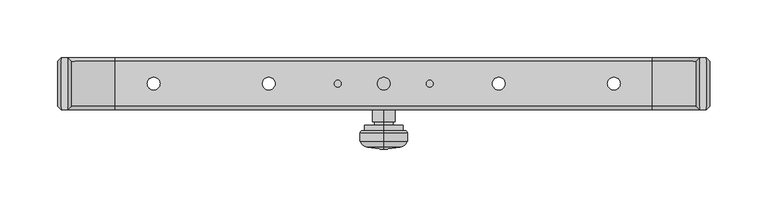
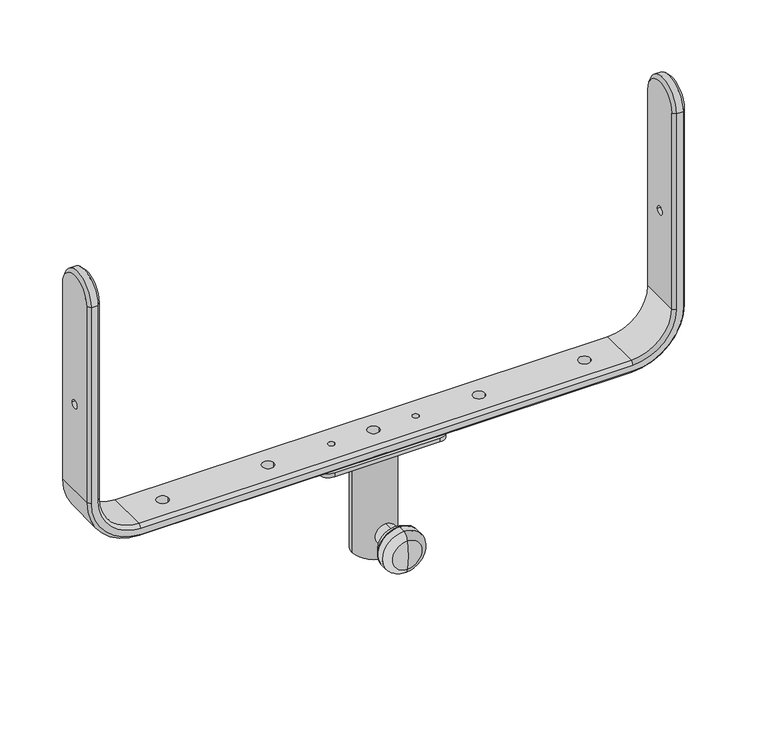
"""IFC4 building model written with IfcOpenShell, lengths in millimetres: proxy geometry, ePS10-HBRK535-SHM : ePS10-HBRK535-SHM."""

from ifc_helpers import new_model, si_unit, point, frame, frame_2d, origin, origin_with_axes, origin_2d, place, context, project, spatial, polyline, circle_curve, ellipse_curve, trimmed, segment, composite_curve, outline, extrude, source, transform, mapped, element, save
from ifc_brep_helpers import plane_surface, cylinder_surface, revolved_surface, advanced_brep


def generic_models_154d06d4(model_context):
    return source(origin(), model_context, "Body", "SolidModel", [
        advanced_brep(
        [(283.5, 19.5718345, 246.5012591), (283.5, -19.5718345, 246.5012591), (283.5, -19.5718345, 50.0), (283.5, 19.5718345, 50.0), (283.5, 4.0, 137.0012591), (283.5, -4.0, 137.0012591), (280.5, -22.5718345, 246.5012591), (280.5, -22.5718345, 50.0), (274.5, -22.5718345, 246.5012591), (274.5, -22.5718345, 50.0), (233.5, -22.5718345, 9.0), (-233.5, -22.5718345, 9.0), (-274.5, -22.5718345, 50.0), (-274.5, -22.5718345, 246.5012591), (-280.5, -22.5718345, 246.5012591), (-280.5, -22.5718345, 50.0), (-233.5, -22.5718345, 3.0), (233.5, -22.5718345, 3.0), (271.5, -19.5718345, 246.5012591), (271.5, -19.5718345, 50.0), (271.5, 19.5718345, 246.5012591), (271.5, 19.5718345, 50.0), (271.5, -4.0, 137.0012591), (271.5, 4.0, 137.0012591), (233.5, -19.5718345, 0.0), (233.5, 19.5718345, 0.0), (233.5, -19.5718345, 12.0), (233.5, 19.5718345, 12.0), (-233.5, -19.5718345, 0.0), (-233.5, 19.5718345, 0.0), (5.5, 0.0, 0.0), (-5.5, 0.0, 0.0), (-194.5, 0.0, 0.0), (-205.5, 0.0, 0.0), (-37.0, 0.0, 0.0), (-43.0, 0.0, 0.0), (-94.5, 0.0, 0.0), (-105.5, 0.0, 0.0), (194.5, 0.0, 0.0), (205.5, 0.0, 0.0), (37.0, 0.0, 0.0), (43.0, 0.0, 0.0), (94.5, 0.0, 0.0), (105.5, 0.0, 0.0), (-233.5, -19.5718345, 12.0), (-233.5, 19.5718345, 12.0), (-5.5, 0.0, 12.0), (5.5, 0.0, 12.0), (-205.5, 0.0, 12.0), (-194.5, 0.0, 12.0), (-43.0, 0.0, 12.0), (-37.0, 0.0, 12.0), (-105.5, 0.0, 12.0), (-94.5, 0.0, 12.0), (205.5, 0.0, 12.0), (194.5, 0.0, 12.0), (43.0, 0.0, 12.0), (37.0, 0.0, 12.0), (105.5, 0.0, 12.0), (94.5, 0.0, 12.0), (-283.5, -19.5718345, 50.0), (-283.5, 19.5718345, 50.0), (-271.5, -19.5718345, 50.0), (-271.5, 19.5718345, 50.0), (-283.5, -19.5718345, 246.5012591), (-283.5, 19.5718345, 246.5012591), (-283.5, -4.0, 137.0012591), (-283.5, 4.0, 137.0012591), (-271.5, -19.5718345, 246.5012591), (-271.5, 19.5718345, 246.5012591), (-271.5, 4.0, 137.0012591), (-271.5, -4.0, 137.0012591), (274.5, 22.5718345, 246.5012591), (274.5, 22.5718345, 50.0), (280.5, 22.5718345, 246.5012591), (280.5, 22.5718345, 50.0), (233.5, 22.5718345, 3.0), (-233.5, 22.5718345, 3.0), (-280.5, 22.5718345, 50.0), (-280.5, 22.5718345, 246.5012591), (-274.5, 22.5718345, 246.5012591), (-274.5, 22.5718345, 50.0), (-233.5, 22.5718345, 9.0), (233.5, 22.5718345, 9.0)],
        [
            (0, 1, circle_curve(frame((283.5, 0.0, 246.5012591), z_axis=(1.0, 0.0, 0.0), x_axis=(0.0, -1.0, 0.0)), 19.5718345)),
            (1, 2),
            (2, 3),
            (3, 0),
            (4, 5, circle_curve(frame((283.5, 0.0, 137.0012591), z_axis=(-1.0, 0.0, 0.0), x_axis=(0.0, 1.0, 0.0)), 4.0)),
            (5, 4, circle_curve(frame((283.5, 0.0, 137.0012591), z_axis=(-1.0, 0.0, 0.0), x_axis=(0.0, 1.0, 0.0)), 4.0)),
            (1, 6),
            (6, 7),
            (7, 2),
            (6, 8),
            (8, 9),
            (9, 10, circle_curve(frame((233.5, -22.5718345, 50.0), z_axis=(0.0, 1.0, 0.0), x_axis=(1.0, 0.0, 0.0)), 41.0)),
            (10, 11),
            (11, 12, circle_curve(frame((-233.5, -22.5718345, 50.0), z_axis=(0.0, 1.0, 0.0), x_axis=(0.0, 0.0, -1.0)), 41.0)),
            (12, 13),
            (13, 14),
            (14, 15),
            (15, 16, circle_curve(frame((-233.5, -22.5718345, 50.0), z_axis=(0.0, -1.0, 0.0), x_axis=(0.0, 0.0, -1.0)), 47.0)),
            (16, 17),
            (17, 7, circle_curve(frame((233.5, -22.5718345, 50.0), z_axis=(0.0, -1.0, 0.0), x_axis=(1.0, 0.0, 0.0)), 47.0)),
            (8, 18),
            (18, 19),
            (19, 9),
            (18, 20, circle_curve(frame((271.5, 0.0, 246.5012591), z_axis=(-1.0, 0.0, 0.0), x_axis=(0.0, -1.0, 0.0)), 19.5718345)),
            (20, 21),
            (21, 19),
            (22, 23, circle_curve(frame((271.5, 0.0, 137.0012591), z_axis=(1.0, 0.0, 0.0), x_axis=(0.0, 1.0, 0.0)), 4.0)),
            (23, 22, circle_curve(frame((271.5, 0.0, 137.0012591), z_axis=(1.0, 0.0, 0.0), x_axis=(0.0, 1.0, 0.0)), 4.0)),
            (2, 24, circle_curve(frame((233.5, -19.5718345, 50.0), z_axis=(0.0, 1.0, 0.0), x_axis=(1.0, 0.0, 0.0)), 50.0)),
            (24, 25),
            (25, 3, circle_curve(frame((233.5, 19.5718345, 50.0), z_axis=(0.0, -1.0, 0.0), x_axis=(1.0, 0.0, 0.0)), 50.0)),
            (17, 24),
            (19, 26, circle_curve(frame((233.5, -19.5718345, 50.0), z_axis=(0.0, 1.0, 0.0), x_axis=(1.0, 0.0, 0.0)), 38.0)),
            (26, 10),
            (21, 27, circle_curve(frame((233.5, 19.5718345, 50.0), z_axis=(0.0, 1.0, 0.0), x_axis=(1.0, 0.0, 0.0)), 38.0)),
            (27, 26),
            (24, 28),
            (28, 29),
            (29, 25),
            (30, 31, circle_curve(origin_with_axes(), 5.5)),
            (31, 30, circle_curve(origin_with_axes(), 5.5)),
            (32, 33, circle_curve(frame((-200.0, 0.0, 0.0), z_axis=(0.0, 0.0, 1.0), x_axis=(1.0, 0.0, 0.0)), 5.5)),
            (33, 32, circle_curve(frame((-200.0, 0.0, 0.0), z_axis=(0.0, 0.0, 1.0), x_axis=(1.0, 0.0, 0.0)), 5.5)),
            (34, 35, circle_curve(frame((-40.0, 0.0, 0.0), z_axis=(0.0, 0.0, 1.0), x_axis=(1.0, 0.0, 0.0)), 3.0)),
            (35, 34, circle_curve(frame((-40.0, 0.0, 0.0), z_axis=(0.0, 0.0, 1.0), x_axis=(1.0, 0.0, 0.0)), 3.0)),
            (36, 37, circle_curve(frame((-100.0, 0.0, 0.0), z_axis=(0.0, 0.0, 1.0), x_axis=(1.0, 0.0, 0.0)), 5.5)),
            (37, 36, circle_curve(frame((-100.0, 0.0, 0.0), z_axis=(0.0, 0.0, 1.0), x_axis=(1.0, 0.0, 0.0)), 5.5)),
            (38, 39, circle_curve(frame((200.0, 0.0, 0.0), z_axis=(0.0, 0.0, 1.0), x_axis=(-1.0, 0.0, 0.0)), 5.5)),
            (39, 38, circle_curve(frame((200.0, 0.0, 0.0), z_axis=(0.0, 0.0, 1.0), x_axis=(-1.0, 0.0, 0.0)), 5.5)),
            (40, 41, circle_curve(frame((40.0, 0.0, 0.0), z_axis=(0.0, 0.0, 1.0), x_axis=(-1.0, 0.0, 0.0)), 3.0)),
            (41, 40, circle_curve(frame((40.0, 0.0, 0.0), z_axis=(0.0, 0.0, 1.0), x_axis=(-1.0, 0.0, 0.0)), 3.0)),
            (42, 43, circle_curve(frame((100.0, 0.0, 0.0), z_axis=(0.0, 0.0, 1.0), x_axis=(-1.0, 0.0, 0.0)), 5.5)),
            (43, 42, circle_curve(frame((100.0, 0.0, 0.0), z_axis=(0.0, 0.0, 1.0), x_axis=(-1.0, 0.0, 0.0)), 5.5)),
            (16, 28),
            (26, 44),
            (44, 11),
            (27, 45),
            (45, 44),
            (46, 47, circle_curve(frame((0.0, 0.0, 12.0), z_axis=(0.0, 0.0, -1.0), x_axis=(1.0, 0.0, 0.0)), 5.5)),
            (47, 46, circle_curve(frame((0.0, 0.0, 12.0), z_axis=(0.0, 0.0, -1.0), x_axis=(1.0, 0.0, 0.0)), 5.5)),
            (48, 49, circle_curve(frame((-200.0, 0.0, 12.0), z_axis=(0.0, 0.0, -1.0), x_axis=(1.0, 0.0, 0.0)), 5.5)),
            (49, 48, circle_curve(frame((-200.0, 0.0, 12.0), z_axis=(0.0, 0.0, -1.0), x_axis=(1.0, 0.0, 0.0)), 5.5)),
            (50, 51, circle_curve(frame((-40.0, 0.0, 12.0), z_axis=(0.0, 0.0, -1.0), x_axis=(1.0, 0.0, 0.0)), 3.0)),
            (51, 50, circle_curve(frame((-40.0, 0.0, 12.0), z_axis=(0.0, 0.0, -1.0), x_axis=(1.0, 0.0, 0.0)), 3.0)),
            (52, 53, circle_curve(frame((-100.0, 0.0, 12.0), z_axis=(0.0, 0.0, -1.0), x_axis=(1.0, 0.0, 0.0)), 5.5)),
            (53, 52, circle_curve(frame((-100.0, 0.0, 12.0), z_axis=(0.0, 0.0, -1.0), x_axis=(1.0, 0.0, 0.0)), 5.5)),
            (54, 55, circle_curve(frame((200.0, 0.0, 12.0), z_axis=(0.0, 0.0, -1.0), x_axis=(-1.0, 0.0, 0.0)), 5.5)),
            (55, 54, circle_curve(frame((200.0, 0.0, 12.0), z_axis=(0.0, 0.0, -1.0), x_axis=(-1.0, 0.0, 0.0)), 5.5)),
            (56, 57, circle_curve(frame((40.0, 0.0, 12.0), z_axis=(0.0, 0.0, -1.0), x_axis=(-1.0, 0.0, 0.0)), 3.0)),
            (57, 56, circle_curve(frame((40.0, 0.0, 12.0), z_axis=(0.0, 0.0, -1.0), x_axis=(-1.0, 0.0, 0.0)), 3.0)),
            (58, 59, circle_curve(frame((100.0, 0.0, 12.0), z_axis=(0.0, 0.0, -1.0), x_axis=(-1.0, 0.0, 0.0)), 5.5)),
            (59, 58, circle_curve(frame((100.0, 0.0, 12.0), z_axis=(0.0, 0.0, -1.0), x_axis=(-1.0, 0.0, 0.0)), 5.5)),
            (28, 60, circle_curve(frame((-233.5, -19.5718345, 50.0), z_axis=(0.0, 1.0, 0.0), x_axis=(0.0, 0.0, -1.0)), 50.0)),
            (60, 61),
            (61, 29, circle_curve(frame((-233.5, 19.5718345, 50.0), z_axis=(0.0, -1.0, 0.0), x_axis=(0.0, 0.0, -1.0)), 50.0)),
            (15, 60),
            (44, 62, circle_curve(frame((-233.5, -19.5718345, 50.0), z_axis=(0.0, 1.0, 0.0), x_axis=(0.0, 0.0, -1.0)), 38.0)),
            (62, 12),
            (45, 63, circle_curve(frame((-233.5, 19.5718345, 50.0), z_axis=(0.0, 1.0, 0.0), x_axis=(0.0, 0.0, -1.0)), 38.0)),
            (63, 62),
            (60, 64),
            (64, 65, circle_curve(frame((-283.5, 0.0, 246.5012591), z_axis=(-1.0, 0.0, 0.0), x_axis=(0.0, -1.0, 0.0)), 19.5718345)),
            (65, 61),
            (66, 67, circle_curve(frame((-283.5, 0.0, 137.0012591), z_axis=(1.0, 0.0, 0.0), x_axis=(0.0, 1.0, 0.0)), 4.0)),
            (67, 66, circle_curve(frame((-283.5, 0.0, 137.0012591), z_axis=(1.0, 0.0, 0.0), x_axis=(0.0, 1.0, 0.0)), 4.0)),
            (14, 64),
            (62, 68),
            (68, 13),
            (63, 69),
            (69, 68, circle_curve(frame((-271.5, 0.0, 246.5012591), z_axis=(1.0, 0.0, 0.0), x_axis=(0.0, -1.0, 0.0)), 19.5718345)),
            (70, 71, circle_curve(frame((-271.5, 0.0, 137.0012591), z_axis=(-1.0, 0.0, 0.0), x_axis=(0.0, 1.0, 0.0)), 4.0)),
            (71, 70, circle_curve(frame((-271.5, 0.0, 137.0012591), z_axis=(-1.0, 0.0, 0.0), x_axis=(0.0, 1.0, 0.0)), 4.0)),
            (20, 72),
            (72, 73),
            (73, 21),
            (72, 74),
            (74, 75),
            (75, 76, circle_curve(frame((233.5, 22.5718345, 50.0), z_axis=(0.0, 1.0, 0.0), x_axis=(1.0, 0.0, 0.0)), 47.0)),
            (76, 77),
            (77, 78, circle_curve(frame((-233.5, 22.5718345, 50.0), z_axis=(0.0, 1.0, 0.0), x_axis=(0.0, 0.0, -1.0)), 47.0)),
            (78, 79),
            (79, 80),
            (80, 81),
            (81, 82, circle_curve(frame((-233.5, 22.5718345, 50.0), z_axis=(0.0, -1.0, 0.0), x_axis=(0.0, 0.0, -1.0)), 41.0)),
            (82, 83),
            (83, 73, circle_curve(frame((233.5, 22.5718345, 50.0), z_axis=(0.0, -1.0, 0.0), x_axis=(1.0, 0.0, 0.0)), 41.0)),
            (3, 75),
            (74, 0),
            (83, 27),
            (25, 76),
            (82, 45),
            (29, 77),
            (81, 63),
            (61, 78),
            (80, 69),
            (65, 79),
            (79, 14, circle_curve(frame((-280.5, 0.0, 246.5012591), z_axis=(1.0, 0.0, 0.0), x_axis=(0.0, -1.0, 0.0)), 22.5718345)),
            (13, 80, circle_curve(frame((-274.5, 0.0, 246.5012591), z_axis=(-1.0, 0.0, 0.0), x_axis=(0.0, -1.0, 0.0)), 22.5718345)),
            (72, 8, circle_curve(frame((274.5, 0.0, 246.5012591), z_axis=(1.0, 0.0, 0.0), x_axis=(0.0, -1.0, 0.0)), 22.5718345)),
            (6, 74, circle_curve(frame((280.5, 0.0, 246.5012591), z_axis=(-1.0, 0.0, 0.0), x_axis=(0.0, -1.0, 0.0)), 22.5718345)),
            (47, 30),
            (31, 46),
            (49, 32),
            (33, 48),
            (51, 34),
            (35, 50),
            (23, 4),
            (5, 22),
            (67, 70),
            (71, 66),
            (53, 36),
            (37, 52),
            (55, 38),
            (39, 54),
            (57, 40),
            (41, 56),
            (59, 42),
            (43, 58),
        ],
        [
            plane_surface(frame((283.5, 19.5718345, 246.5012591), z_axis=(1.0, 0.0, 0.0), x_axis=(0.0, 0.0, -1.0))),
            plane_surface(frame((283.5, -19.5718345, 246.5012591), z_axis=(0.707106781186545, -0.70710678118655, 0.0), x_axis=(0.0, 0.0, -1.0))),
            plane_surface(frame((280.5, -22.5718345, 246.5012591), z_axis=(0.0, -1.0, 0.0), x_axis=(0.0, 0.0, -1.0))),
            plane_surface(frame((274.5, -22.5718345, 246.5012591), z_axis=(-0.7071067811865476, -0.7071067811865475, 0.0), x_axis=(0.0, 0.0, -1.0))),
            plane_surface(frame((271.5, -19.5718345, 246.5012591), z_axis=(-1.0, 0.0, 0.0), x_axis=(0.0, 0.0, -1.0))),
            cylinder_surface(frame((233.5, 0.0, 50.0), z_axis=(0.0, -1.0, 0.0), x_axis=(1.0, 0.0, 0.0)), 50.0),
            revolved_surface(polyline([(283.5, -19.5718345, 50.0), (280.5, -22.5718345, 50.0)]), (233.5, 0.0, 50.0), (0.0, -1.0, 0.0)),
            revolved_surface(polyline([(274.5, -22.5718345, 50.0), (271.5, -19.5718345, 50.0)]), (233.5, 0.0, 50.0), (0.0, -1.0, 0.0)),
            revolved_surface(polyline([(271.5, -19.5718345, 50.0), (271.5, 19.5718345, 50.0)]), (233.5, 0.0, 50.0), (0.0, -1.0, 0.0)),
            plane_surface(frame((233.5, 19.5718345, 0.0), z_axis=(0.0, 0.0, -1.0), x_axis=(-1.0, 0.0, 0.0))),
            plane_surface(frame((233.5, -19.5718345, 0.0), z_axis=(0.0, -0.7071067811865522, -0.7071067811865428), x_axis=(-1.0, 0.0, 0.0))),
            plane_surface(frame((233.5, -22.5718345, 9.0), z_axis=(0.0, -0.7071067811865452, 0.7071067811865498), x_axis=(-1.0, 0.0, 0.0))),
            plane_surface(frame((233.5, -19.5718345, 12.0), z_axis=(0.0, 0.0, 1.0), x_axis=(-1.0, 0.0, 0.0))),
            cylinder_surface(frame((-233.5, 0.0, 50.0), z_axis=(0.0, -1.0, 0.0), x_axis=(0.0, 0.0, -1.0)), 50.0),
            revolved_surface(polyline([(-233.5, -19.5718345, 0.0), (-233.5, -22.5718345, 3.0)]), (-233.5, 0.0, 50.0), (0.0, -1.0, 0.0)),
            revolved_surface(polyline([(-233.5, -22.5718345, 9.0), (-233.5, -19.5718345, 12.0)]), (-233.5, 0.0, 50.0), (0.0, -1.0, 0.0)),
            revolved_surface(polyline([(-233.5, -19.5718345, 12.0), (-233.5, 19.5718345, 12.0)]), (-233.5, 0.0, 50.0), (0.0, -1.0, 0.0)),
            plane_surface(frame((-283.5, 19.5718345, 50.0), z_axis=(-1.0, 0.0, 0.0), x_axis=(0.0, 0.0, 1.0))),
            plane_surface(frame((-283.5, -19.5718345, 50.0), z_axis=(-0.7071067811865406, -0.7071067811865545, 0.0), x_axis=(0.0, 0.0, 1.0))),
            plane_surface(frame((-274.5, -22.5718345, 50.0), z_axis=(0.707106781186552, -0.707106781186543, 0.0), x_axis=(0.0, 0.0, 1.0))),
            plane_surface(frame((-271.5, -19.5718345, 50.0), z_axis=(1.0, 0.0, 0.0), x_axis=(0.0, 0.0, 1.0))),
            plane_surface(frame((271.5, 19.5718345, 246.5012591), z_axis=(-0.707106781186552, 0.707106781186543, 0.0), x_axis=(0.0, 0.0, -1.0))),
            plane_surface(frame((274.5, 22.5718345, 246.5012591), z_axis=(0.0, 1.0, 0.0), x_axis=(0.0, 0.0, -1.0))),
            plane_surface(frame((280.5, 22.5718345, 246.5012591), z_axis=(0.7071067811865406, 0.7071067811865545, 0.0), x_axis=(0.0, 0.0, -1.0))),
            revolved_surface(polyline([(271.5, 19.5718345, 50.0), (274.5, 22.5718345, 50.0)]), (233.5, 0.0, 50.0), (0.0, -1.0, 0.0)),
            revolved_surface(polyline([(280.5, 22.5718345, 50.0), (283.5, 19.5718345, 50.0)]), (233.5, 0.0, 50.0), (0.0, -1.0, 0.0)),
            plane_surface(frame((233.5, 19.5718345, 12.0), z_axis=(0.0, 0.7071067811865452, 0.7071067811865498), x_axis=(-1.0, 0.0, 0.0))),
            plane_surface(frame((233.5, 22.5718345, 3.0), z_axis=(0.0, 0.7071067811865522, -0.7071067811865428), x_axis=(-1.0, 0.0, 0.0))),
            revolved_surface(polyline([(-233.5, 19.5718345, 12.0), (-233.5, 22.5718345, 9.0)]), (-233.5, 0.0, 50.0), (0.0, -1.0, 0.0)),
            revolved_surface(polyline([(-233.5, 22.5718345, 3.0), (-233.5, 19.5718345, 0.0)]), (-233.5, 0.0, 50.0), (0.0, -1.0, 0.0)),
            plane_surface(frame((-271.5, 19.5718345, 50.0), z_axis=(0.7071067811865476, 0.7071067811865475, 0.0), x_axis=(0.0, 0.0, 1.0))),
            plane_surface(frame((-280.5, 22.5718345, 50.0), z_axis=(-0.707106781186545, 0.70710678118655, 0.0), x_axis=(0.0, 0.0, 1.0))),
            cylinder_surface(frame((1916.0, 0.0, 246.5012591), z_axis=(1.0, 0.0, 0.0), x_axis=(0.0, -1.0, 0.0)), 22.5718345),
            revolved_surface(polyline([(-274.5, -22.5718345, 246.5012591), (-271.5, -19.5718345, 246.5012591)]), (1916.0, 0.0, 246.5012591), (1.0, 0.0, 0.0)),
            revolved_surface(polyline([(-283.5, -19.5718345, 246.5012591), (-280.5, -22.5718345, 246.5012591)]), (1916.0, 0.0, 246.5012591), (1.0, 0.0, 0.0)),
            cylinder_surface(frame((-1916.0, 0.0, 246.5012591), z_axis=(1.0, 0.0, 0.0), x_axis=(0.0, -1.0, 0.0)), 22.5718345),
            revolved_surface(polyline([(271.5, -19.5718345, 246.5012591), (274.5, -22.5718345, 246.5012591)]), (-1916.0, 0.0, 246.5012591), (1.0, 0.0, 0.0)),
            revolved_surface(polyline([(280.5, -22.5718345, 246.5012591), (283.5, -19.5718345, 246.5012591)]), (-1916.0, 0.0, 246.5012591), (1.0, 0.0, 0.0)),
            revolved_surface(polyline([(5.5, 0.0, 0.0), (5.5, 0.0, 12.0)]), (0.0, 0.0, 20.0), (0.0, 0.0, -1.0)),
            revolved_surface(polyline([(-194.5, 0.0, 0.0), (-194.5, 0.0, 12.0)]), (-200.0, 0.0, 0.0), (0.0, 0.0, -1.0)),
            revolved_surface(polyline([(-37.0, 0.0, 0.0), (-37.0, 0.0, 12.0)]), (-40.0, 0.0, 0.0), (0.0, 0.0, -1.0)),
            revolved_surface(polyline([(283.5, 4.0, 137.0012591), (271.5, 4.0, 137.0012591)]), (-290.0, 0.0, 137.0012591), (1.0, 0.0, 0.0)),
            revolved_surface(polyline([(-271.5, 4.0, 137.0012591), (-283.5, 4.0, 137.0012591)]), (-290.0, 0.0, 137.0012591), (1.0, 0.0, 0.0)),
            revolved_surface(polyline([(-94.5, 0.0, 0.0), (-94.5, 0.0, 12.0)]), (-100.0, 0.0, 0.0), (0.0, 0.0, -1.0)),
            revolved_surface(polyline([(194.5, 0.0, 0.0), (194.5, 0.0, 12.0)]), (200.0, 0.0, 0.0), (0.0, 0.0, -1.0)),
            revolved_surface(polyline([(37.0, 0.0, 0.0), (37.0, 0.0, 12.0)]), (40.0, 0.0, 0.0), (0.0, 0.0, -1.0)),
            revolved_surface(polyline([(94.5, 0.0, 0.0), (94.5, 0.0, 12.0)]), (100.0, 0.0, 0.0), (0.0, 0.0, -1.0)),
        ],
        [
            (0, [[1, 2, 3, 4], [5, 6]]),
            (1, [[7, 8, 9, -2]]),
            (2, [[10, 11, 12, 13, 14, 15, 16, 17, 18, 19, 20, -8]]),
            (3, [[21, 22, 23, -11]]),
            (4, [[24, 25, 26, -22], [27, 28]]),
            (5, [[29, 30, 31, -3]]),
            (6, [[-20, 32, -29, -9]]),
            (7, [[-23, 33, 34, -12]]),
            (8, [[35, 36, -33, -26]]),
            (9, [[37, 38, 39, -30], [40, 41], [42, 43], [44, 45], [46, 47], [48, 49], [50, 51], [52, 53]]),
            (10, [[54, -37, -32, -19]]),
            (11, [[-34, 55, 56, -13]]),
            (12, [[57, 58, -55, -36], [59, 60], [61, 62], [63, 64], [65, 66], [67, 68], [69, 70], [71, 72]]),
            (13, [[73, 74, 75, -38]]),
            (14, [[76, -73, -54, -18]]),
            (15, [[-56, 77, 78, -14]]),
            (16, [[79, 80, -77, -58]]),
            (17, [[81, 82, 83, -74], [84, 85]]),
            (18, [[86, -81, -76, -17]]),
            (19, [[-78, 87, 88, -15]]),
            (20, [[89, 90, -87, -80], [91, 92]]),
            (21, [[93, 94, 95, -25]]),
            (22, [[96, 97, 98, 99, 100, 101, 102, 103, 104, 105, 106, -94]]),
            (23, [[107, -97, 108, -4]]),
            (24, [[-95, -106, 109, -35]]),
            (25, [[110, -98, -107, -31]]),
            (26, [[-109, -105, 111, -57]]),
            (27, [[112, -99, -110, -39]]),
            (28, [[-111, -104, 113, -79]]),
            (29, [[114, -100, -112, -75]]),
            (30, [[-113, -103, 115, -89]]),
            (31, [[116, -101, -114, -83]]),
            (32, [[-102, 117, -16, 118]]),
            (33, [[-88, -90, -115, -118]]),
            (34, [[-116, -82, -86, -117]]),
            (35, [[-96, 119, -10, 120]]),
            (36, [[-93, -24, -21, -119]]),
            (37, [[-7, -1, -108, -120]]),
            (38, [[-60, 121, -41, 122]]),
            (38, [[-40, -121, -59, -122]]),
            (39, [[-62, 123, -43, 124]]),
            (39, [[-42, -123, -61, -124]]),
            (40, [[-64, 125, -45, 126]]),
            (40, [[-44, -125, -63, -126]]),
            (41, [[-28, 127, -6, 128]]),
            (42, [[-85, 129, -92, 130]]),
            (41, [[-5, -127, -27, -128]]),
            (42, [[-91, -129, -84, -130]]),
            (43, [[-66, 131, -47, 132]]),
            (43, [[-46, -131, -65, -132]]),
            (44, [[-68, 133, -49, 134]]),
            (44, [[-48, -133, -67, -134]]),
            (45, [[-70, 135, -51, 136]]),
            (45, [[-50, -135, -69, -136]]),
            (46, [[-72, 137, -53, 138]]),
            (46, [[-52, -137, -71, -138]]),
        ],
    ),
        advanced_brep(
        [(0.0, -33.0, -90.0), (0.0, -33.0, -70.0), (0.0, -20.0, -70.0), (0.0, -20.0, -90.0), (0.0, -33.0, -88.0), (0.0, -33.0, -72.0), (0.0, -36.0, -88.0), (0.0, -36.0, -72.0), (0.0, -36.0, -97.0), (0.0, -36.0, -63.0), (0.0, -41.0, -97.0), (0.0, -41.0, -63.0), (0.0, -41.0, -99.0134125), (0.0, -41.0, -60.9865875), (0.0, -42.4865875, -100.5), (0.0, -42.4865875, -59.5), (0.0, -50.0, -100.5), (0.0, -50.0, -59.5), (0.0, -55.3756411, -94.3160324), (0.0, -55.3756411, -65.6839676), (0.0, -56.9925385, -80.0), (0.0, -20.0, -80.0)],
        [
            (0, 1, circle_curve(frame((0.0, -33.0, -80.0), z_axis=(0.0, 1.0, 0.0), x_axis=(0.0, 0.0, 1.0)), 10.0)),
            (1, 2),
            (2, 3, circle_curve(frame((0.0, -20.0, -80.0), z_axis=(0.0, -1.0, 0.0), x_axis=(0.0, 0.0, 1.0)), 10.0)),
            (3, 0),
            (1, 0, circle_curve(frame((0.0, -33.0, -80.0), z_axis=(0.0, 1.0, 0.0), x_axis=(0.0, 0.0, 1.0)), 10.0)),
            (3, 2, circle_curve(frame((0.0, -20.0, -80.0), z_axis=(0.0, -1.0, 0.0), x_axis=(0.0, 0.0, 1.0)), 10.0)),
            (4, 5, circle_curve(frame((0.0, -33.0, -80.0), z_axis=(0.0, 1.0, 0.0), x_axis=(0.0, 0.0, 1.0)), 8.0)),
            (5, 1),
            (0, 4),
            (5, 4, circle_curve(frame((0.0, -33.0, -80.0), z_axis=(0.0, 1.0, 0.0), x_axis=(0.0, 0.0, 1.0)), 8.0)),
            (6, 7, circle_curve(frame((0.0, -36.0, -80.0), z_axis=(0.0, 1.0, 0.0), x_axis=(0.0, 0.0, 1.0)), 8.0)),
            (7, 5),
            (4, 6),
            (7, 6, circle_curve(frame((0.0, -36.0, -80.0), z_axis=(0.0, 1.0, 0.0), x_axis=(0.0, 0.0, 1.0)), 8.0)),
            (8, 9, circle_curve(frame((0.0, -36.0, -80.0), z_axis=(0.0, 1.0, 0.0), x_axis=(0.0, 0.0, 1.0)), 17.0)),
            (9, 7),
            (6, 8),
            (9, 8, circle_curve(frame((0.0, -36.0, -80.0), z_axis=(0.0, 1.0, 0.0), x_axis=(0.0, 0.0, 1.0)), 17.0)),
            (10, 11, circle_curve(frame((0.0, -41.0, -80.0), z_axis=(0.0, 1.0, 0.0), x_axis=(0.0, 0.0, 1.0)), 17.0)),
            (11, 9),
            (8, 10),
            (11, 10, circle_curve(frame((0.0, -41.0, -80.0), z_axis=(0.0, 1.0, 0.0), x_axis=(0.0, 0.0, 1.0)), 17.0)),
            (12, 13, circle_curve(frame((0.0, -41.0, -80.0), z_axis=(0.0, 1.0, 0.0), x_axis=(0.0, 0.0, 1.0)), 19.0134125)),
            (13, 11),
            (10, 12),
            (13, 12, circle_curve(frame((0.0, -41.0, -80.0), z_axis=(0.0, 1.0, 0.0), x_axis=(0.0, 0.0, 1.0)), 19.0134125)),
            (14, 15, circle_curve(frame((0.0, -42.4865875, -80.0), z_axis=(0.0, 1.0, 0.0), x_axis=(0.0, 0.0, 1.0)), 20.5)),
            (15, 13, circle_curve(frame((0.0, -42.4865875, -60.9865875), z_axis=(-1.0, 0.0, 0.0), x_axis=(0.0, 1.0, 0.0)), 1.4865875)),
            (12, 14, circle_curve(frame((0.0, -42.4865875, -99.0134125), z_axis=(-1.0, 0.0, 0.0), x_axis=(0.0, 1.0, 0.0)), 1.4865875)),
            (15, 14, circle_curve(frame((0.0, -42.4865875, -80.0), z_axis=(0.0, 1.0, 0.0), x_axis=(0.0, 0.0, 1.0)), 20.5)),
            (16, 17, circle_curve(frame((0.0, -50.0, -80.0), z_axis=(0.0, 1.0, 0.0), x_axis=(0.0, 0.0, 1.0)), 20.5)),
            (17, 15),
            (14, 16),
            (17, 16, circle_curve(frame((0.0, -50.0, -80.0), z_axis=(0.0, 1.0, 0.0), x_axis=(0.0, 0.0, 1.0)), 20.5)),
            (18, 19, circle_curve(frame((0.0, -55.3756411, -80.0), z_axis=(0.0, 1.0, 0.0), x_axis=(0.0, 0.0, 1.0)), 14.3160324)),
            (19, 17, circle_curve(frame((0.0, -47.4239637, -67.1677848), z_axis=(-1.0, 0.0, 0.0), x_axis=(0.0, 1.0, 0.0)), 8.088936)),
            (16, 18, circle_curve(frame((0.0, -47.4239637, -92.8322152), z_axis=(-1.0, 0.0, 0.0), x_axis=(0.0, 1.0, 0.0)), 8.088936)),
            (19, 18, circle_curve(frame((0.0, -55.3756411, -80.0), z_axis=(0.0, 1.0, 0.0), x_axis=(0.0, 0.0, 1.0)), 14.3160324)),
            (20, 19, circle_curve(frame((0.0, 43.0388316, -84.0485305), z_axis=(-1.0, 0.0, 0.0), x_axis=(0.0, 1.0, 0.0)), 100.1132638)),
            (18, 20, circle_curve(frame((0.0, 43.0388316, -75.9514695), z_axis=(-1.0, 0.0, 0.0), x_axis=(0.0, 1.0, 0.0)), 100.1132638)),
            (2, 21),
            (21, 3),
        ],
        [
            cylinder_surface(frame((0.0, -66.5618796, -80.0), z_axis=(0.0, -1.0, 0.0), x_axis=(0.0, 0.0, 1.0)), 10.0),
            plane_surface(frame((0.0, -33.0, -80.0), z_axis=(0.0, -1.0, 0.0), x_axis=(0.0, 0.0, 1.0))),
            cylinder_surface(frame((0.0, -66.5618796, -80.0), z_axis=(0.0, -1.0, 0.0), x_axis=(0.0, 0.0, 1.0)), 8.0),
            plane_surface(frame((0.0, -36.0, -80.0), z_axis=(0.0, 1.0, 0.0), x_axis=(0.0, 0.0, 1.0))),
            cylinder_surface(frame((0.0, -66.5618796, -80.0), z_axis=(0.0, -1.0, 0.0), x_axis=(0.0, 0.0, 1.0)), 17.0),
            plane_surface(frame((0.0, -41.0, -80.0), z_axis=(0.0, 1.0, 0.0), x_axis=(0.0, 0.0, 1.0))),
            revolved_surface(trimmed(ellipse_curve(frame((0.0, -42.4865875, -60.9865875), z_axis=(1.0, 0.0, 0.0), x_axis=(0.0, 1.0, 0.0)), 1.4865875, 1.4865875), [point((0.0, -41.0, -60.9865875))], [point((0.0, -42.4865875, -59.5))], True, "CARTESIAN"), (0.0, -66.5618796, -80.0), (0.0, -1.0, 0.0)),
            cylinder_surface(frame((0.0, -66.5618796, -80.0), z_axis=(0.0, -1.0, 0.0), x_axis=(0.0, 0.0, 1.0)), 20.5),
            revolved_surface(trimmed(ellipse_curve(frame((0.0, -47.4239637, -67.1677848), z_axis=(1.0, 0.0, 0.0), x_axis=(0.0, 1.0, 0.0)), 8.088936, 8.088936), [point((0.0, -50.0, -59.5))], [point((0.0, -55.3756411, -65.6839676))], True, "CARTESIAN"), (0.0, -66.5618796, -80.0), (0.0, -1.0, 0.0)),
            revolved_surface(trimmed(ellipse_curve(frame((0.0, 43.0388316, -84.0485305), z_axis=(1.0, 0.0, 0.0), x_axis=(0.0, 1.0, 0.0)), 100.1132638, 100.1132638), [point((0.0, -55.3756411, -65.6839676))], [point((0.0, -56.9925385, -80.0))], True, "CARTESIAN"), (0.0, -66.5618796, -80.0), (0.0, -1.0, 0.0)),
            plane_surface(frame((0.0, -20.0, -80.0), z_axis=(0.0, 1.0, 0.0), x_axis=(0.0, 0.0, 1.0))),
        ],
        [
            (0, [[1, 2, 3, 4]]),
            (0, [[5, -4, 6, -2]]),
            (1, [[7, 8, -1, 9]]),
            (1, [[10, -9, -5, -8]]),
            (2, [[11, 12, -7, 13]]),
            (2, [[14, -13, -10, -12]]),
            (3, [[15, 16, -11, 17]]),
            (3, [[18, -17, -14, -16]]),
            (4, [[19, 20, -15, 21]]),
            (4, [[22, -21, -18, -20]]),
            (5, [[23, 24, -19, 25]]),
            (5, [[26, -25, -22, -24]]),
            (6, [[27, 28, -23, 29]]),
            (6, [[30, -29, -26, -28]]),
            (7, [[31, 32, -27, 33]]),
            (7, [[34, -33, -30, -32]]),
            (8, [[35, 36, -31, 37]]),
            (8, [[38, -37, -34, -36]]),
            (9, [[39, -35, 40]]),
            (9, [[-40, -38, -39]]),
            (10, [[-3, 41, 42]]),
            (10, [[-6, -42, -41]]),
        ],
    ),
        extrude(outline(composite_curve([segment(trimmed(circle_curve(origin_2d(), 20.0), [point((-20.0, 0.0))], [point((20.0, 0.0))], False, "CARTESIAN"), True, "CONTINUOUS"), segment(trimmed(circle_curve(origin_2d(), 20.0), [point((20.0, 0.0))], [point((-20.0, 0.0))], False, "CARTESIAN"), True, "CONTINUOUS")], self_intersect=False), holes=[composite_curve([segment(trimmed(circle_curve(origin_2d(), 18.0448116), [point((-18.0448116, 0.0))], [point((18.0448116, 0.0))], True, "CARTESIAN"), True, "CONTINUOUS"), segment(trimmed(circle_curve(origin_2d(), 18.0448116), [point((18.0448116, 0.0))], [point((-18.0448116, 0.0))], True, "CARTESIAN"), True, "CONTINUOUS")], self_intersect=False)]), frame((0.0, 0.0, -104.0), z_axis=(0.0, 0.0, 1.0), x_axis=(1.0, 0.0, 0.0)), (0.0, 0.0, 1.0), 100.0),
        extrude(outline(composite_curve([segment(trimmed(circle_curve(frame_2d((-40.0, 0.0)), 6.0), [point((-46.0, 0.0))], [point((-34.0, 0.0))], False, "CARTESIAN"), True, "CONTINUOUS"), segment(trimmed(circle_curve(frame_2d((-40.0, 0.0)), 6.0), [point((-34.0, 0.0))], [point((-46.0, 0.0))], False, "CARTESIAN"), True, "CONTINUOUS")], self_intersect=False)), frame((0.0, 0.0, -8.0), z_axis=(0.0, 0.0, 1.0), x_axis=(1.0, 0.0, 0.0)), (0.0, 0.0, 1.0), 4.0),
        extrude(outline(composite_curve([segment(trimmed(circle_curve(frame_2d((40.0, 0.0)), 6.0), [point((46.0, 0.0))], [point((34.0, 0.0))], False, "CARTESIAN"), True, "CONTINUOUS"), segment(trimmed(circle_curve(frame_2d((40.0, 0.0)), 6.0), [point((34.0, 0.0))], [point((46.0, 0.0))], False, "CARTESIAN"), True, "CONTINUOUS")], self_intersect=False)), frame((0.0, 0.0, -8.0), z_axis=(0.0, 0.0, 1.0), x_axis=(1.0, 0.0, 0.0)), (0.0, 0.0, 1.0), 4.0),
        extrude(outline(composite_curve([segment(trimmed(circle_curve(frame_2d((50.0, 12.5)), 10.0), [point((50.0, 22.5))], [point((60.0, 12.5))], False, "CARTESIAN"), True, "CONTINUOUS"), segment(polyline([(60.0, 12.5), (60.0, -12.5)]), True, "CONTINUOUS"), segment(trimmed(circle_curve(frame_2d((50.0, -12.5)), 10.0), [point((60.0, -12.5))], [point((50.0, -22.5))], False, "CARTESIAN"), True, "CONTINUOUS"), segment(polyline([(50.0, -22.5), (-50.0, -22.5)]), True, "CONTINUOUS"), segment(trimmed(circle_curve(frame_2d((-50.0, -12.5)), 10.0), [point((-50.0, -22.5))], [point((-60.0, -12.5))], False, "CARTESIAN"), True, "CONTINUOUS"), segment(polyline([(-60.0, -12.5), (-60.0, 12.5)]), True, "CONTINUOUS"), segment(trimmed(circle_curve(frame_2d((-50.0, 12.5)), 10.0), [point((-60.0, 12.5))], [point((-50.0, 22.5))], False, "CARTESIAN"), True, "CONTINUOUS"), segment(polyline([(-50.0, 22.5), (50.0, 22.5)]), True, "CONTINUOUS")], self_intersect=False), holes=[composite_curve([segment(trimmed(circle_curve(frame_2d((-40.0, 0.0)), 3.0), [point((-43.0, 0.0))], [point((-37.0, 0.0))], True, "CARTESIAN"), True, "CONTINUOUS"), segment(trimmed(circle_curve(frame_2d((-40.0, 0.0)), 3.0), [point((-37.0, 0.0))], [point((-43.0, 0.0))], True, "CARTESIAN"), True, "CONTINUOUS")], self_intersect=False), composite_curve([segment(trimmed(circle_curve(frame_2d((40.0, 0.0)), 3.0), [point((43.0, 0.0))], [point((37.0, 0.0))], True, "CARTESIAN"), True, "CONTINUOUS"), segment(trimmed(circle_curve(frame_2d((40.0, 0.0)), 3.0), [point((37.0, 0.0))], [point((43.0, 0.0))], True, "CARTESIAN"), True, "CONTINUOUS")], self_intersect=False)]), frame((0.0, 0.0, -4.0), z_axis=(0.0, 0.0, 1.0), x_axis=(1.0, 0.0, 0.0)), (0.0, 0.0, 1.0), 4.0),
    ])


if __name__ == "__main__":
    model = new_model("IFC4")
    model_context = context("Model", 3, world=origin())
    ifc_project = project(units=[si_unit("LENGTHUNIT", "METRE", prefix="MILLI")], contexts=[model_context])
    site = spatial("IfcSite", under=ifc_project)
    building = spatial("IfcBuilding", under=site)
    placement = place(None, origin())
    generic_models_shape = generic_models_154d06d4(model_context)
    element("IfcBuildingElementProxy", 1, Name="ePS10-HBRK535-SHM : ePS10-HBRK535-SHM", ObjectType="ePS10-HBRK535-SHM : ePS10-HBRK535-SHM", at=placement, inside=building, context=model_context, shape_type="MappedRepresentation", body=[
        mapped(generic_models_shape, transform((0.0, 0.0, 0.0), x_axis=(1.0, 0.0, 0.0), y_axis=(0.0, 1.0, 0.0), z_axis=(0.0, 0.0, 1.0))),
    ])
    save(model, "model.ifc")
